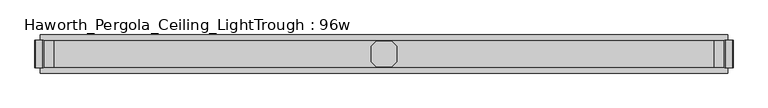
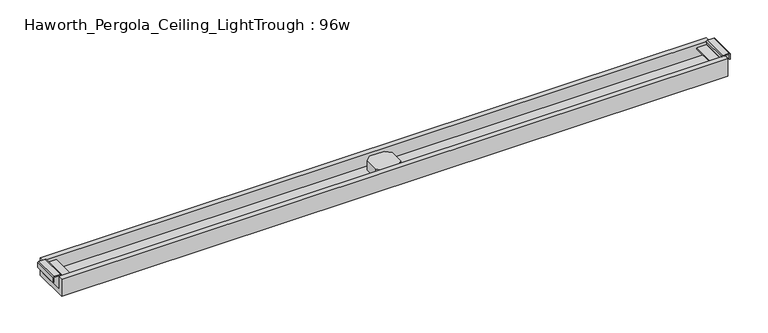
"""IFC4 building model written with IfcOpenShell, lengths in millimetres: furniture geometry, Haworth_Pergola_Ceiling_LightTrough : 96w."""

from ifc_helpers import new_model, si_unit, point, frame, frame_2d, origin, place, context, project, spatial, polyline, circle_curve, trimmed, segment, composite_curve, outline, extrude, source, transform, mapped, element, save


def haworth_pergola_ceiling_lighttrough_96w_e1721e3f(model_context):
    return source(origin(), model_context, "Body", "SweptSolid", [
        extrude(outline(polyline([(335.2419998, -26.8840513), (335.2419998, 26.8840485), (353.3159515, 44.9580002), (407.0840484, 44.9580002), (425.1580002, 26.8840485), (425.1580002, -26.8840513), (407.0840484, -44.9580002), (353.3159515, -44.9580002), (335.2419998, -26.8840513)])), frame((0.0, 0.0, 2389.4796), z_axis=(0.0, 0.0, 1.0), x_axis=(1.0, 0.0, 0.0)), (0.0, 0.0, 1.0), 38.0999994),
        extrude(outline(composite_curve([segment(polyline([(2418.3545999, 1618.7534303), (2437.4045999, 1618.7534303)]), True, "CONTINUOUS"), segment(trimmed(circle_curve(frame_2d((2437.4045999, 1615.0934293)), 3.660001), [point((2437.4045999, 1618.7534303))], [point((2441.0646008, 1615.0934293))], False, "CARTESIAN"), True, "CONTINUOUS"), segment(polyline([(2441.0646008, 1615.0934293), (2441.0646008, 1591.6934303)]), True, "CONTINUOUS"), segment(trimmed(circle_curve(frame_2d((2437.0478931, 1592.0670697)), 4.0340485), [point((2441.0646008, 1591.6934303))], [point((2437.0478931, 1588.0330212))], False, "CARTESIAN"), True, "CONTINUOUS"), segment(polyline([(2437.0478931, 1588.0330212), (2426.6645986, 1588.0330212), (2425.6646, 1587.0330226), (2425.6646, 1551.5434301), (2423.0046, 1551.5434301), (2423.0046, 1587.0334301), (2423.0046, 1597.4999999), (2389.4796, 1597.4999999), (2389.4796, 1599.4), (2437.0478931, 1599.4), (2437.0478931, 1597.4999999), (2426.6645986, 1597.4999999), (2426.6645986, 1590.69343), (2437.0478931, 1590.69343), (2438.4045979, 1591.6934303), (2438.4045979, 1615.0934316), (2437.4045999, 1616.0934296), (2418.3545999, 1616.0934296), (2418.3545999, 1618.7534303)]), True, "CONTINUOUS")], self_intersect=False)), frame((0.0, -48.650001, 0.0), z_axis=(0.0, 1.0, 0.0), x_axis=(0.0, 0.0, 1.0)), (0.0, 0.0, 1.0), 97.3000021),
        extrude(outline(composite_curve([segment(polyline([(2418.3545999, -858.3534303), (2418.3545999, -855.6934296), (2437.4045999, -855.6934296), (2438.4045979, -854.6934316), (2438.4045979, -831.2934303), (2437.0478931, -830.29343), (2426.6645986, -830.29343), (2426.6645986, -837.1), (2437.0478931, -837.1), (2437.0478931, -839.0), (2389.4796, -839.0), (2389.4796, -837.1), (2423.0046, -837.1), (2423.0046, -826.6334301), (2423.0046, -791.1434301), (2425.6646, -791.1434301), (2425.6646, -826.6330226), (2426.6645986, -827.6330212), (2437.0478931, -827.6330212)]), True, "CONTINUOUS"), segment(trimmed(circle_curve(frame_2d((2437.0478931, -831.6670697)), 4.0340485), [point((2437.0478931, -827.6330212))], [point((2441.0646008, -831.2934303))], False, "CARTESIAN"), True, "CONTINUOUS"), segment(polyline([(2441.0646008, -831.2934303), (2441.0646008, -854.6934294)]), True, "CONTINUOUS"), segment(trimmed(circle_curve(frame_2d((2437.4045999, -854.6934294)), 3.660001), [point((2441.0646008, -854.6934294))], [point((2437.4045999, -858.3534303))], False, "CARTESIAN"), True, "CONTINUOUS"), segment(polyline([(2437.4045999, -858.3534303), (2418.3545999, -858.3534303)]), True, "CONTINUOUS")], self_intersect=False)), frame((0.0, -48.650001, 0.0), z_axis=(0.0, 1.0, 0.0), x_axis=(0.0, 0.0, 1.0)), (0.0, 0.0, 1.0), 97.3000021),
        extrude(outline(polyline([(-67.700001, 2370.4296), (-67.700001, 2437.0478931), (-48.650001, 2437.0478931), (-48.650001, 2389.4796), (48.650001, 2389.4796), (48.650001, 2437.0478931), (67.700001, 2437.0478931), (67.700001, 2370.4296), (-67.700001, 2370.4296)])), frame((-839.0, 0.0, 0.0), z_axis=(1.0, 0.0, 0.0), x_axis=(0.0, 1.0, 0.0)), (0.0, 0.0, 1.0), 2438.4),
    ])


if __name__ == "__main__":
    model = new_model("IFC4")
    model_context = context("Model", 3, world=origin())
    ifc_project = project(units=[si_unit("LENGTHUNIT", "METRE", prefix="MILLI")], contexts=[model_context])
    site = spatial("IfcSite", under=ifc_project)
    building = spatial("IfcBuilding", under=site)
    placement = place(None, origin())
    haworth_pergola_ceiling_lighttrough_96w_shape = haworth_pergola_ceiling_lighttrough_96w_e1721e3f(model_context)
    element("IfcFurniture", 1, ObjectType="Haworth_Pergola_Ceiling_LightTrough : 96w", at=placement, inside=building, context=model_context, shape_type="MappedRepresentation", body=[
        mapped(haworth_pergola_ceiling_lighttrough_96w_shape, transform((0.0, 0.0, 0.0), x_axis=(1.0, 0.0, 0.0), y_axis=(0.0, 1.0, 0.0), z_axis=(0.0, 0.0, 1.0))),
    ])
    save(model, "model.ifc")
